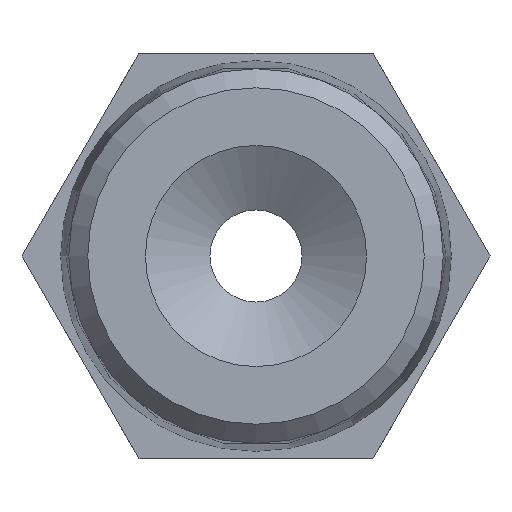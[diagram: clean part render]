
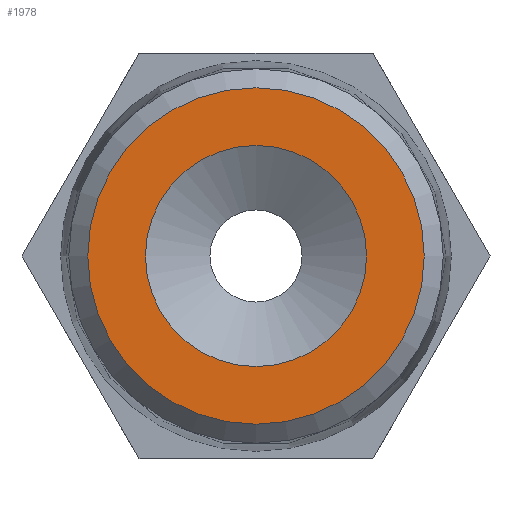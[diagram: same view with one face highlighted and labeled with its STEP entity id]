
A CAD part, front view. The second image highlights one B-rep face of the part: STEP entity #1978.
In plain terms, the highlighted planar face has unit normal (0, -1, 0).
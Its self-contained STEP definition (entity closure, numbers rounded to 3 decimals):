
#1725=CARTESIAN_POINT('',(6.,0.,0.0));
#1726=VERTEX_POINT('',#1725);
#1727=CARTESIAN_POINT('',(0.,0.,0.0));
#1728=DIRECTION('',(0.0,1.0,0.0));
#1729=DIRECTION('',(1.0,0.0,0.0));
#1730=AXIS2_PLACEMENT_3D('',#1727,#1728,#1729);
#1731=CIRCLE('',#1730,6.);
#1732=EDGE_CURVE('',#1726,#1726,#1731,.T.);
#1952=CARTESIAN_POINT('',(9.131,0.,0.0));
#1953=VERTEX_POINT('',#1952);
#1954=CARTESIAN_POINT('',(0.,0.,0.0));
#1955=DIRECTION('',(0.0,-1.0,0.0));
#1956=DIRECTION('',(1.0,0.0,0.0));
#1957=AXIS2_PLACEMENT_3D('',#1954,#1955,#1956);
#1958=CIRCLE('',#1957,9.131);
#1959=EDGE_CURVE('',#1953,#1953,#1958,.T.);
#1967=CARTESIAN_POINT('',(4.566,0.,0.0));
#1968=DIRECTION('',(0.0,-1.0,0.0));
#1969=DIRECTION('',(0.0,0.0,-1.0));
#1970=AXIS2_PLACEMENT_3D('',#1967,#1968,#1969);
#1971=PLANE('',#1970);
#1972=ORIENTED_EDGE('',*,*,#1959,.T.);
#1973=EDGE_LOOP('',(#1972));
#1974=FACE_OUTER_BOUND('',#1973,.T.);
#1975=ORIENTED_EDGE('',*,*,#1732,.T.);
#1976=EDGE_LOOP('',(#1975));
#1977=FACE_BOUND('',#1976,.T.);
#1978=ADVANCED_FACE('',(#1974,#1977),#1971,.T.);
